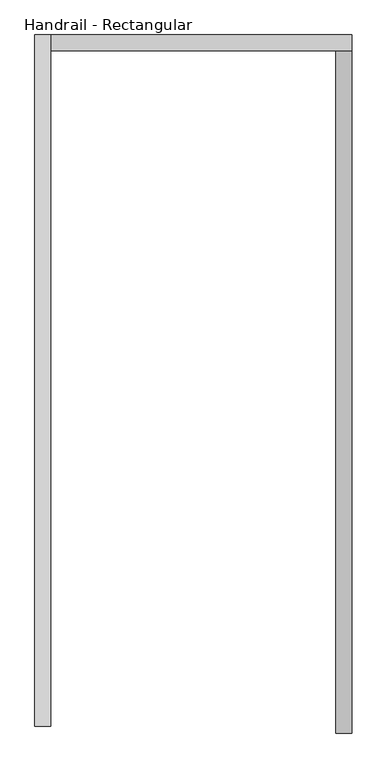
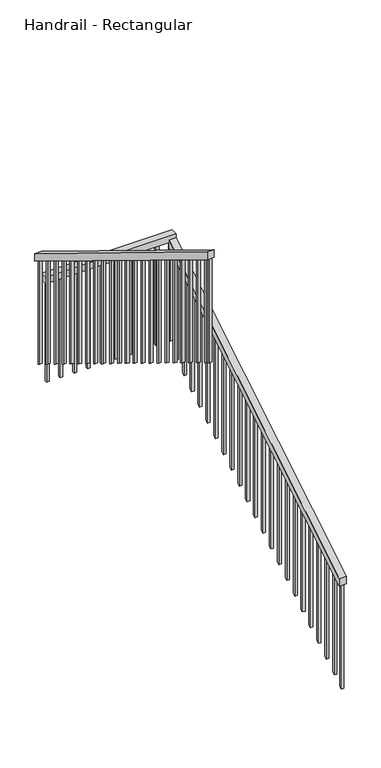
"""IFC4 building model written with IfcOpenShell, lengths in millimetres: railing geometry, Handrail - Rectangular."""

from ifc_helpers import new_model, si_unit, frame, origin, place, context, project, spatial, polyline, outline, extrude, source, transform, mapped, element, save


def handrail_rectangular_209a2d18(model_context):
    return source(origin(), model_context, "Body", "SweptSolid", [
        extrude(outline(polyline([(6559.8588201, 4072.3318731), (6559.8588201, 4131.7333333), (8744.2588201, 5455.6121212), (8744.2588201, 5396.210661), (6559.8588201, 4072.3318731)])), frame((-174.9500398, 0.0, 0.0), z_axis=(1.0, 0.0, 0.0), x_axis=(0.0, 1.0, 0.0)), (0.0, 0.0, 1.0), 50.8),
        extrude(outline(polyline([(-124.1500398, 8795.0588201), (-124.1500398, 8744.2588201), (-1089.3500398, 8744.2588201), (-1089.3500398, 8795.0588201), (-124.1500398, 8795.0588201)])), frame((0.0, 0.0, 5435.6), z_axis=(0.0, 0.0, 1.0), x_axis=(1.0, 0.0, 0.0)), (0.0, 0.0, 1.0), 50.8),
        extrude(outline(polyline([(8795.0588201, 5655.7333333), (8795.0588201, 5596.1559175), (6581.1052413, 6952.6823038), (6581.1052413, 7012.2597197), (8795.0588201, 5655.7333333)])), frame((-1140.1500398, 0.0, 0.0), z_axis=(1.0, 0.0, 0.0), x_axis=(0.0, 1.0, 0.0)), (0.0, 0.0, 1.0), 50.8),
        extrude(outline(polyline([(6645.5838201, 6913.1752002), (6645.5838201, 6101.7582518), (6626.5338201, 6113.4305054), (6626.5338201, 6924.8474538), (6645.5838201, 6913.1752002)])), frame((-1124.2750398, 0.0, 0.0), z_axis=(1.0, 0.0, 0.0), x_axis=(0.0, 1.0, 0.0)), (0.0, 0.0, 1.0), 19.05),
        extrude(outline(polyline([(6747.1838201, 6850.9231809), (6747.1838201, 6039.5062326), (6728.1338201, 6051.1784862), (6728.1338201, 6862.5954346), (6747.1838201, 6850.9231809)])), frame((-1124.2750398, 0.0, 0.0), z_axis=(1.0, 0.0, 0.0), x_axis=(0.0, 1.0, 0.0)), (0.0, 0.0, 1.0), 19.05),
        extrude(outline(polyline([(6848.7838201, 6788.6711617), (6848.7838201, 5977.2542133), (6829.7338201, 5988.9264669), (6829.7338201, 6800.3434153), (6848.7838201, 6788.6711617)])), frame((-1124.2750398, 0.0, 0.0), z_axis=(1.0, 0.0, 0.0), x_axis=(0.0, 1.0, 0.0)), (0.0, 0.0, 1.0), 19.05),
        extrude(outline(polyline([(6950.3838201, 6726.4191424), (6950.3838201, 5915.002194), (6931.3338201, 5926.6744476), (6931.3338201, 6738.091396), (6950.3838201, 6726.4191424)])), frame((-1124.2750398, 0.0, 0.0), z_axis=(1.0, 0.0, 0.0), x_axis=(0.0, 1.0, 0.0)), (0.0, 0.0, 1.0), 19.05),
        extrude(outline(polyline([(7051.9838201, 6664.1671231), (7051.9838201, 5852.7501747), (7032.9338201, 5864.4224284), (7032.9338201, 6675.8393767), (7051.9838201, 6664.1671231)])), frame((-1124.2750398, 0.0, 0.0), z_axis=(1.0, 0.0, 0.0), x_axis=(0.0, 1.0, 0.0)), (0.0, 0.0, 1.0), 19.05),
        extrude(outline(polyline([(7153.5838201, 6601.9151039), (7153.5838201, 5790.4981555), (7134.5338201, 5802.1704091), (7134.5338201, 6613.5873575), (7153.5838201, 6601.9151039)])), frame((-1124.2750398, 0.0, 0.0), z_axis=(1.0, 0.0, 0.0), x_axis=(0.0, 1.0, 0.0)), (0.0, 0.0, 1.0), 19.05),
        extrude(outline(polyline([(7255.1838201, 6539.6630846), (7255.1838201, 5728.2461362), (7236.1338201, 5739.9183898), (7236.1338201, 6551.3353382), (7255.1838201, 6539.6630846)])), frame((-1124.2750398, 0.0, 0.0), z_axis=(1.0, 0.0, 0.0), x_axis=(0.0, 1.0, 0.0)), (0.0, 0.0, 1.0), 19.05),
        extrude(outline(polyline([(7356.7838201, 6477.4110653), (7356.7838201, 5665.9941169), (7337.7338201, 5677.6663705), (7337.7338201, 6489.0833189), (7356.7838201, 6477.4110653)])), frame((-1124.2750398, 0.0, 0.0), z_axis=(1.0, 0.0, 0.0), x_axis=(0.0, 1.0, 0.0)), (0.0, 0.0, 1.0), 19.05),
        extrude(outline(polyline([(7458.3838201, 6415.159046), (7458.3838201, 5603.7420977), (7439.3338201, 5615.4143513), (7439.3338201, 6426.8312997), (7458.3838201, 6415.159046)])), frame((-1124.2750398, 0.0, 0.0), z_axis=(1.0, 0.0, 0.0), x_axis=(0.0, 1.0, 0.0)), (0.0, 0.0, 1.0), 19.05),
        extrude(outline(polyline([(7559.9838201, 6352.9070268), (7559.9838201, 5541.4900784), (7540.9338201, 5553.162332), (7540.9338201, 6364.5792804), (7559.9838201, 6352.9070268)])), frame((-1124.2750398, 0.0, 0.0), z_axis=(1.0, 0.0, 0.0), x_axis=(0.0, 1.0, 0.0)), (0.0, 0.0, 1.0), 19.05),
        extrude(outline(polyline([(7661.5838201, 6290.6550075), (7661.5838201, 5479.2380591), (7642.5338201, 5490.9103127), (7642.5338201, 6302.3272611), (7661.5838201, 6290.6550075)])), frame((-1124.2750398, 0.0, 0.0), z_axis=(1.0, 0.0, 0.0), x_axis=(0.0, 1.0, 0.0)), (0.0, 0.0, 1.0), 19.05),
        extrude(outline(polyline([(7763.1838201, 6228.4029882), (7763.1838201, 5416.9860398), (7744.1338201, 5428.6582935), (7744.1338201, 6240.0752418), (7763.1838201, 6228.4029882)])), frame((-1124.2750398, 0.0, 0.0), z_axis=(1.0, 0.0, 0.0), x_axis=(0.0, 1.0, 0.0)), (0.0, 0.0, 1.0), 19.05),
        extrude(outline(polyline([(7864.7838201, 6166.150969), (7864.7838201, 5354.7340206), (7845.7338201, 5366.4062742), (7845.7338201, 6177.8232226), (7864.7838201, 6166.150969)])), frame((-1124.2750398, 0.0, 0.0), z_axis=(1.0, 0.0, 0.0), x_axis=(0.0, 1.0, 0.0)), (0.0, 0.0, 1.0), 19.05),
        extrude(outline(polyline([(7966.3838201, 6103.8989497), (7966.3838201, 5292.4820013), (7947.3338201, 5304.1542549), (7947.3338201, 6115.5712033), (7966.3838201, 6103.8989497)])), frame((-1124.2750398, 0.0, 0.0), z_axis=(1.0, 0.0, 0.0), x_axis=(0.0, 1.0, 0.0)), (0.0, 0.0, 1.0), 19.05),
        extrude(outline(polyline([(8067.9838201, 6041.6469304), (8067.9838201, 5230.229982), (8048.9338201, 5241.9022356), (8048.9338201, 6053.319184), (8067.9838201, 6041.6469304)])), frame((-1124.2750398, 0.0, 0.0), z_axis=(1.0, 0.0, 0.0), x_axis=(0.0, 1.0, 0.0)), (0.0, 0.0, 1.0), 19.05),
        extrude(outline(polyline([(8169.5838201, 5979.3949111), (8169.5838201, 5167.9779628), (8150.5338201, 5179.6502164), (8150.5338201, 5991.0671648), (8169.5838201, 5979.3949111)])), frame((-1124.2750398, 0.0, 0.0), z_axis=(1.0, 0.0, 0.0), x_axis=(0.0, 1.0, 0.0)), (0.0, 0.0, 1.0), 19.05),
        extrude(outline(polyline([(8271.1838201, 5917.1428919), (8271.1838201, 5105.7259435), (8252.1338201, 5117.3981971), (8252.1338201, 5928.8151455), (8271.1838201, 5917.1428919)])), frame((-1124.2750398, 0.0, 0.0), z_axis=(1.0, 0.0, 0.0), x_axis=(0.0, 1.0, 0.0)), (0.0, 0.0, 1.0), 19.05),
        extrude(outline(polyline([(8372.7838201, 5854.8908726), (8372.7838201, 5043.4739242), (8353.7338201, 5055.1461778), (8353.7338201, 5866.5631262), (8372.7838201, 5854.8908726)])), frame((-1124.2750398, 0.0, 0.0), z_axis=(1.0, 0.0, 0.0), x_axis=(0.0, 1.0, 0.0)), (0.0, 0.0, 1.0), 19.05),
        extrude(outline(polyline([(8474.3838201, 5792.6388533), (8474.3838201, 4981.2219049), (8455.3338201, 4992.8941586), (8455.3338201, 5804.311107), (8474.3838201, 5792.6388533)])), frame((-1124.2750398, 0.0, 0.0), z_axis=(1.0, 0.0, 0.0), x_axis=(0.0, 1.0, 0.0)), (0.0, 0.0, 1.0), 19.05),
        extrude(outline(polyline([(8575.9838201, 5730.3868341), (8575.9838201, 4918.9698857), (8556.9338201, 4930.6421393), (8556.9338201, 5742.0590877), (8575.9838201, 5730.3868341)])), frame((-1124.2750398, 0.0, 0.0), z_axis=(1.0, 0.0, 0.0), x_axis=(0.0, 1.0, 0.0)), (0.0, 0.0, 1.0), 19.05),
        extrude(outline(polyline([(8677.5838201, 5668.1348148), (8677.5838201, 4856.7178664), (8658.5338201, 4868.39012), (8658.5338201, 5679.8070684), (8677.5838201, 5668.1348148)])), frame((-1124.2750398, 0.0, 0.0), z_axis=(1.0, 0.0, 0.0), x_axis=(0.0, 1.0, 0.0)), (0.0, 0.0, 1.0), 19.05),
        extrude(outline(polyline([(-1054.4250398, 8760.1338201), (-1073.4750398, 8760.1338201), (-1073.4750398, 8779.1838201), (-1054.4250398, 8779.1838201), (-1054.4250398, 8760.1338201)])), frame((0.0, 0.0, 4648.2), z_axis=(0.0, 0.0, 1.0), x_axis=(1.0, 0.0, 0.0)), (0.0, 0.0, 1.0), 787.4),
        extrude(outline(polyline([(-952.8250398, 8760.1338201), (-971.8750398, 8760.1338201), (-971.8750398, 8779.1838201), (-952.8250398, 8779.1838201), (-952.8250398, 8760.1338201)])), frame((0.0, 0.0, 4648.2), z_axis=(0.0, 0.0, 1.0), x_axis=(1.0, 0.0, 0.0)), (0.0, 0.0, 1.0), 787.4),
        extrude(outline(polyline([(-851.2250398, 8760.1338201), (-870.2750398, 8760.1338201), (-870.2750398, 8779.1838201), (-851.2250398, 8779.1838201), (-851.2250398, 8760.1338201)])), frame((0.0, 0.0, 4648.2), z_axis=(0.0, 0.0, 1.0), x_axis=(1.0, 0.0, 0.0)), (0.0, 0.0, 1.0), 787.4),
        extrude(outline(polyline([(-749.6250398, 8760.1338201), (-768.6750398, 8760.1338201), (-768.6750398, 8779.1838201), (-749.6250398, 8779.1838201), (-749.6250398, 8760.1338201)])), frame((0.0, 0.0, 4648.2), z_axis=(0.0, 0.0, 1.0), x_axis=(1.0, 0.0, 0.0)), (0.0, 0.0, 1.0), 787.4),
        extrude(outline(polyline([(-648.0250398, 8760.1338201), (-667.0750398, 8760.1338201), (-667.0750398, 8779.1838201), (-648.0250398, 8779.1838201), (-648.0250398, 8760.1338201)])), frame((0.0, 0.0, 4648.2), z_axis=(0.0, 0.0, 1.0), x_axis=(1.0, 0.0, 0.0)), (0.0, 0.0, 1.0), 787.4),
        extrude(outline(polyline([(-546.4250398, 8760.1338201), (-565.4750398, 8760.1338201), (-565.4750398, 8779.1838201), (-546.4250398, 8779.1838201), (-546.4250398, 8760.1338201)])), frame((0.0, 0.0, 4648.2), z_axis=(0.0, 0.0, 1.0), x_axis=(1.0, 0.0, 0.0)), (0.0, 0.0, 1.0), 787.4),
        extrude(outline(polyline([(-444.8250398, 8760.1338201), (-463.8750398, 8760.1338201), (-463.8750398, 8779.1838201), (-444.8250398, 8779.1838201), (-444.8250398, 8760.1338201)])), frame((0.0, 0.0, 4648.2), z_axis=(0.0, 0.0, 1.0), x_axis=(1.0, 0.0, 0.0)), (0.0, 0.0, 1.0), 787.4),
        extrude(outline(polyline([(-343.2250398, 8760.1338201), (-362.2750398, 8760.1338201), (-362.2750398, 8779.1838201), (-343.2250398, 8779.1838201), (-343.2250398, 8760.1338201)])), frame((0.0, 0.0, 4648.2), z_axis=(0.0, 0.0, 1.0), x_axis=(1.0, 0.0, 0.0)), (0.0, 0.0, 1.0), 787.4),
        extrude(outline(polyline([(-241.6250398, 8760.1338201), (-260.6750398, 8760.1338201), (-260.6750398, 8779.1838201), (-241.6250398, 8779.1838201), (-241.6250398, 8760.1338201)])), frame((0.0, 0.0, 4648.2), z_axis=(0.0, 0.0, 1.0), x_axis=(1.0, 0.0, 0.0)), (0.0, 0.0, 1.0), 787.4),
        extrude(outline(polyline([(8702.9838201, 5371.1955094), (8702.9838201, 4558.9781483), (8683.9338201, 4547.4326938), (8683.9338201, 5359.6500549), (8702.9838201, 5371.1955094)])), frame((-159.0750398, 0.0, 0.0), z_axis=(1.0, 0.0, 0.0), x_axis=(0.0, 1.0, 0.0)), (0.0, 0.0, 1.0), 19.05),
        extrude(outline(polyline([(8601.3838201, 5309.6197519), (8601.3838201, 4497.4023907), (8582.3338201, 4485.8569362), (8582.3338201, 5298.0742973), (8601.3838201, 5309.6197519)])), frame((-159.0750398, 0.0, 0.0), z_axis=(1.0, 0.0, 0.0), x_axis=(0.0, 1.0, 0.0)), (0.0, 0.0, 1.0), 19.05),
        extrude(outline(polyline([(8499.7838201, 5248.0439943), (8499.7838201, 4435.8266332), (8480.7338201, 4424.2811786), (8480.7338201, 5236.4985397), (8499.7838201, 5248.0439943)])), frame((-159.0750398, 0.0, 0.0), z_axis=(1.0, 0.0, 0.0), x_axis=(0.0, 1.0, 0.0)), (0.0, 0.0, 1.0), 19.05),
        extrude(outline(polyline([(8398.1838201, 5186.4682367), (8398.1838201, 4374.2508756), (8379.1338201, 4362.7054211), (8379.1338201, 5174.9227822), (8398.1838201, 5186.4682367)])), frame((-159.0750398, 0.0, 0.0), z_axis=(1.0, 0.0, 0.0), x_axis=(0.0, 1.0, 0.0)), (0.0, 0.0, 1.0), 19.05),
        extrude(outline(polyline([(8296.5838201, 5124.8924791), (8296.5838201, 4312.675118), (8277.5338201, 4301.1296635), (8277.5338201, 5113.3470246), (8296.5838201, 5124.8924791)])), frame((-159.0750398, 0.0, 0.0), z_axis=(1.0, 0.0, 0.0), x_axis=(0.0, 1.0, 0.0)), (0.0, 0.0, 1.0), 19.05),
        extrude(outline(polyline([(8194.9838201, 5063.3167216), (8194.9838201, 4251.0993604), (8175.9338201, 4239.5539059), (8175.9338201, 5051.771267), (8194.9838201, 5063.3167216)])), frame((-159.0750398, 0.0, 0.0), z_axis=(1.0, 0.0, 0.0), x_axis=(0.0, 1.0, 0.0)), (0.0, 0.0, 1.0), 19.05),
        extrude(outline(polyline([(8093.3838201, 5001.740964), (8093.3838201, 4189.5236029), (8074.3338201, 4177.9781483), (8074.3338201, 4990.1955094), (8093.3838201, 5001.740964)])), frame((-159.0750398, 0.0, 0.0), z_axis=(1.0, 0.0, 0.0), x_axis=(0.0, 1.0, 0.0)), (0.0, 0.0, 1.0), 19.05),
        extrude(outline(polyline([(7991.7838201, 4940.1652064), (7991.7838201, 4127.9478453), (7972.7338201, 4116.4023907), (7972.7338201, 4928.6197519), (7991.7838201, 4940.1652064)])), frame((-159.0750398, 0.0, 0.0), z_axis=(1.0, 0.0, 0.0), x_axis=(0.0, 1.0, 0.0)), (0.0, 0.0, 1.0), 19.05),
        extrude(outline(polyline([(7890.1838201, 4878.5894488), (7890.1838201, 4066.3720877), (7871.1338201, 4054.8266332), (7871.1338201, 4867.0439943), (7890.1838201, 4878.5894488)])), frame((-159.0750398, 0.0, 0.0), z_axis=(1.0, 0.0, 0.0), x_axis=(0.0, 1.0, 0.0)), (0.0, 0.0, 1.0), 19.05),
        extrude(outline(polyline([(7788.5838201, 4817.0136913), (7788.5838201, 4004.7963301), (7769.5338201, 3993.2508756), (7769.5338201, 4805.4682367), (7788.5838201, 4817.0136913)])), frame((-159.0750398, 0.0, 0.0), z_axis=(1.0, 0.0, 0.0), x_axis=(0.0, 1.0, 0.0)), (0.0, 0.0, 1.0), 19.05),
        extrude(outline(polyline([(7686.9838201, 4755.4379337), (7686.9838201, 3943.2205726), (7667.9338201, 3931.675118), (7667.9338201, 4743.8924791), (7686.9838201, 4755.4379337)])), frame((-159.0750398, 0.0, 0.0), z_axis=(1.0, 0.0, 0.0), x_axis=(0.0, 1.0, 0.0)), (0.0, 0.0, 1.0), 19.05),
        extrude(outline(polyline([(7585.3838201, 4693.8621761), (7585.3838201, 3881.644815), (7566.3338201, 3870.0993604), (7566.3338201, 4682.3167216), (7585.3838201, 4693.8621761)])), frame((-159.0750398, 0.0, 0.0), z_axis=(1.0, 0.0, 0.0), x_axis=(0.0, 1.0, 0.0)), (0.0, 0.0, 1.0), 19.05),
        extrude(outline(polyline([(7483.7838201, 4632.2864185), (7483.7838201, 3820.0690574), (7464.7338201, 3808.5236029), (7464.7338201, 4620.740964), (7483.7838201, 4632.2864185)])), frame((-159.0750398, 0.0, 0.0), z_axis=(1.0, 0.0, 0.0), x_axis=(0.0, 1.0, 0.0)), (0.0, 0.0, 1.0), 19.05),
        extrude(outline(polyline([(7382.1838201, 4570.710661), (7382.1838201, 3758.4932998), (7363.1338201, 3746.9478453), (7363.1338201, 4559.1652064), (7382.1838201, 4570.710661)])), frame((-159.0750398, 0.0, 0.0), z_axis=(1.0, 0.0, 0.0), x_axis=(0.0, 1.0, 0.0)), (0.0, 0.0, 1.0), 19.05),
        extrude(outline(polyline([(7280.5838201, 4509.1349034), (7280.5838201, 3696.9175423), (7261.5338201, 3685.3720877), (7261.5338201, 4497.5894488), (7280.5838201, 4509.1349034)])), frame((-159.0750398, 0.0, 0.0), z_axis=(1.0, 0.0, 0.0), x_axis=(0.0, 1.0, 0.0)), (0.0, 0.0, 1.0), 19.05),
        extrude(outline(polyline([(7178.9838201, 4447.5591458), (7178.9838201, 3635.3417847), (7159.9338201, 3623.7963301), (7159.9338201, 4436.0136913), (7178.9838201, 4447.5591458)])), frame((-159.0750398, 0.0, 0.0), z_axis=(1.0, 0.0, 0.0), x_axis=(0.0, 1.0, 0.0)), (0.0, 0.0, 1.0), 19.05),
        extrude(outline(polyline([(7077.3838201, 4385.9833882), (7077.3838201, 3573.7660271), (7058.3338201, 3562.2205726), (7058.3338201, 4374.4379337), (7077.3838201, 4385.9833882)])), frame((-159.0750398, 0.0, 0.0), z_axis=(1.0, 0.0, 0.0), x_axis=(0.0, 1.0, 0.0)), (0.0, 0.0, 1.0), 19.05),
        extrude(outline(polyline([(6975.7838201, 4324.4076307), (6975.7838201, 3512.1902695), (6956.7338201, 3500.644815), (6956.7338201, 4312.8621761), (6975.7838201, 4324.4076307)])), frame((-159.0750398, 0.0, 0.0), z_axis=(1.0, 0.0, 0.0), x_axis=(0.0, 1.0, 0.0)), (0.0, 0.0, 1.0), 19.05),
        extrude(outline(polyline([(6874.1838201, 4262.8318731), (6874.1838201, 3450.614512), (6855.1338201, 3439.0690574), (6855.1338201, 4251.2864185), (6874.1838201, 4262.8318731)])), frame((-159.0750398, 0.0, 0.0), z_axis=(1.0, 0.0, 0.0), x_axis=(0.0, 1.0, 0.0)), (0.0, 0.0, 1.0), 19.05),
        extrude(outline(polyline([(6772.5838201, 4201.2561155), (6772.5838201, 3389.0387544), (6753.5338201, 3377.4932998), (6753.5338201, 4189.710661), (6772.5838201, 4201.2561155)])), frame((-159.0750398, 0.0, 0.0), z_axis=(1.0, 0.0, 0.0), x_axis=(0.0, 1.0, 0.0)), (0.0, 0.0, 1.0), 19.05),
        extrude(outline(polyline([(6670.9838201, 4139.6803579), (6670.9838201, 3327.4629968), (6651.9338201, 3315.9175423), (6651.9338201, 4128.1349034), (6670.9838201, 4139.6803579)])), frame((-159.0750398, 0.0, 0.0), z_axis=(1.0, 0.0, 0.0), x_axis=(0.0, 1.0, 0.0)), (0.0, 0.0, 1.0), 19.05),
        extrude(outline(polyline([(8779.1838201, 5605.8827955), (8779.1838201, 4794.4658471), (8760.1338201, 4806.1381007), (8760.1338201, 5617.5550491), (8779.1838201, 5605.8827955)])), frame((-1124.2750398, 0.0, 0.0), z_axis=(1.0, 0.0, 0.0), x_axis=(0.0, 1.0, 0.0)), (0.0, 0.0, 1.0), 19.05),
        extrude(outline(polyline([(-140.0250398, 8760.1338201), (-159.0750398, 8760.1338201), (-159.0750398, 8779.1838201), (-140.0250398, 8779.1838201), (-140.0250398, 8760.1338201)])), frame((0.0, 0.0, 4648.2), z_axis=(0.0, 0.0, 1.0), x_axis=(1.0, 0.0, 0.0)), (0.0, 0.0, 1.0), 787.4),
        extrude(outline(polyline([(6600.1552413, 6941.0100502), (6600.1552413, 6129.5931018), (6581.1052413, 6141.2653555), (6581.1052413, 6952.6823038), (6600.1552413, 6941.0100502)])), frame((-1124.2750398, 0.0, 0.0), z_axis=(1.0, 0.0, 0.0), x_axis=(0.0, 1.0, 0.0)), (0.0, 0.0, 1.0), 19.05),
        extrude(outline(polyline([(6578.9088201, 4083.8773276), (6578.9088201, 3271.6599665), (6559.8588201, 3260.114512), (6559.8588201, 4072.3318731), (6578.9088201, 4083.8773276)])), frame((-159.0750398, 0.0, 0.0), z_axis=(1.0, 0.0, 0.0), x_axis=(0.0, 1.0, 0.0)), (0.0, 0.0, 1.0), 19.05),
    ])


if __name__ == "__main__":
    model = new_model("IFC4")
    model_context = context("Model", 3, world=origin())
    ifc_project = project(units=[si_unit("LENGTHUNIT", "METRE", prefix="MILLI")], contexts=[model_context])
    site = spatial("IfcSite", under=ifc_project)
    building = spatial("IfcBuilding", under=site)
    placement = place(None, origin())
    handrail_rectangular_shape = handrail_rectangular_209a2d18(model_context)
    element("IfcRailing", 1, ObjectType="Handrail - Rectangular", at=placement, inside=building, context=model_context, shape_type="MappedRepresentation", body=[
        mapped(handrail_rectangular_shape, transform((0.0, 0.0, 0.0), x_axis=(1.0, 0.0, 0.0), y_axis=(0.0, 1.0, 0.0), z_axis=(0.0, 0.0, 1.0))),
    ])
    save(model, "model.ifc")
